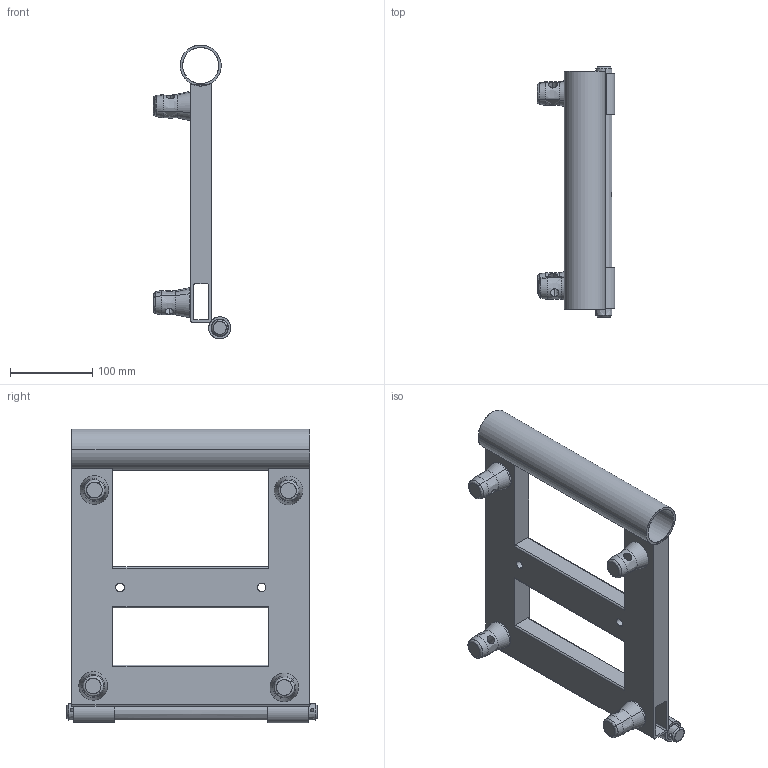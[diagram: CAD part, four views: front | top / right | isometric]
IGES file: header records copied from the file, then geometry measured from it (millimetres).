
Start section: SolidWorks IGES file using analytic representation for surfaces
Global section: file name: K:\BIBLIO\asd_biblio\Accessoires\ANGV259\ANGV259-002.IGS; native system: SolidWorks 2009; preprocessor: SolidWorks 2009; author: des3; date: 091026.135315; units: millimetre
Bounding box: 94.65 x 305 x 358.24 mm (x, y, z)
Surface area: 326301.4 mm2 (no closed solid volume)
Topology: 0 solids, 0 shells, 132 faces, 2928 edges, 2928 vertices
Faces by surface type: revolution 90, bspline 42
